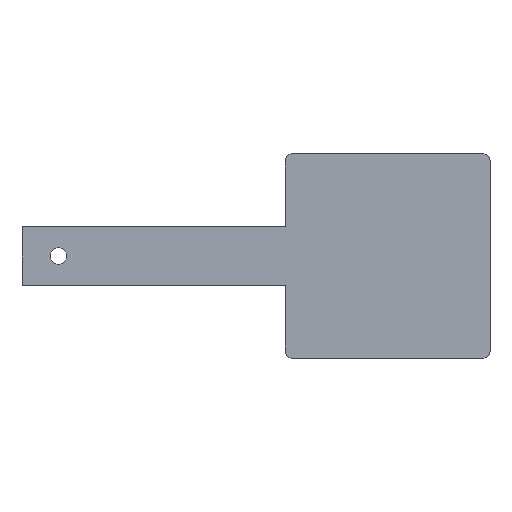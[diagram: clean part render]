
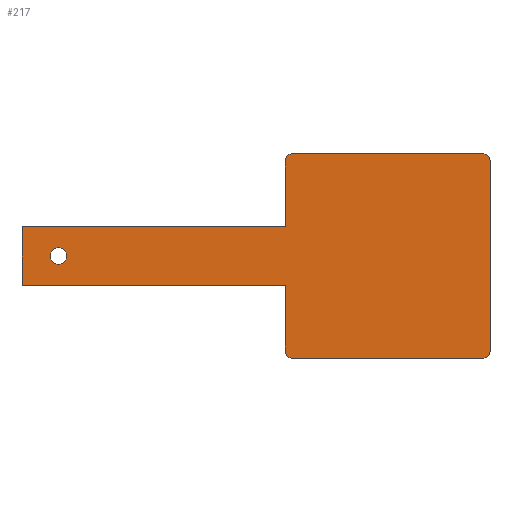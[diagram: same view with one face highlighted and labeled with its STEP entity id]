
A CAD part, top view. The second image highlights one B-rep face of the part: STEP entity #217.
In plain terms, the highlighted planar face has unit normal (0, 0, 1).
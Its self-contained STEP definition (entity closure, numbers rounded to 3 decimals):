
#24 = VERTEX_POINT('',#25);
#25 = CARTESIAN_POINT('',(-26.,-28.,0.35));
#31 = EDGE_CURVE('',#24,#32,#34,.T.);
#32 = VERTEX_POINT('',#33);
#33 = CARTESIAN_POINT('',(26.,-28.,0.35));
#34 = LINE('',#35,#36);
#35 = CARTESIAN_POINT('',(-26.,-28.,0.35));
#36 = VECTOR('',#37,1.);
#37 = DIRECTION('',(1.,0.,0.));
#64 = VERTEX_POINT('',#65);
#65 = CARTESIAN_POINT('',(-28.,-26.,0.35));
#71 = EDGE_CURVE('',#64,#24,#72,.T.);
#72 = CIRCLE('',#73,2.);
#73 = AXIS2_PLACEMENT_3D('',#74,#75,#76);
#74 = CARTESIAN_POINT('',(-26.,-26.,0.35));
#75 = DIRECTION('',(0.,0.,1.));
#76 = DIRECTION('',(1.,0.,0.));
#95 = EDGE_CURVE('',#32,#96,#98,.T.);
#96 = VERTEX_POINT('',#97);
#97 = CARTESIAN_POINT('',(28.,-26.,0.35));
#98 = CIRCLE('',#99,2.);
#99 = AXIS2_PLACEMENT_3D('',#100,#101,#102);
#100 = CARTESIAN_POINT('',(26.,-26.,0.35));
#101 = DIRECTION('',(0.,0.,1.));
#102 = DIRECTION('',(1.,0.,0.));
#217 = ADVANCED_FACE('',(#218,#295),#306,.T.);
#218 = FACE_BOUND('',#219,.T.);
#219 = EDGE_LOOP('',(#220,#221,#222,#223,#231,#240,#248,#257,#265,#273,
    #281,#289));
#220 = ORIENTED_EDGE('',*,*,#71,.T.);
#221 = ORIENTED_EDGE('',*,*,#31,.T.);
#222 = ORIENTED_EDGE('',*,*,#95,.T.);
#223 = ORIENTED_EDGE('',*,*,#224,.T.);
#224 = EDGE_CURVE('',#96,#225,#227,.T.);
#225 = VERTEX_POINT('',#226);
#226 = CARTESIAN_POINT('',(28.,26.,0.35));
#227 = LINE('',#228,#229);
#228 = CARTESIAN_POINT('',(28.,-26.,0.35));
#229 = VECTOR('',#230,1.);
#230 = DIRECTION('',(0.,1.,0.));
#231 = ORIENTED_EDGE('',*,*,#232,.T.);
#232 = EDGE_CURVE('',#225,#233,#235,.T.);
#233 = VERTEX_POINT('',#234);
#234 = CARTESIAN_POINT('',(26.,28.,0.35));
#235 = CIRCLE('',#236,2.);
#236 = AXIS2_PLACEMENT_3D('',#237,#238,#239);
#237 = CARTESIAN_POINT('',(26.,26.,0.35));
#238 = DIRECTION('',(0.,0.,1.));
#239 = DIRECTION('',(1.,0.,0.));
#240 = ORIENTED_EDGE('',*,*,#241,.T.);
#241 = EDGE_CURVE('',#233,#242,#244,.T.);
#242 = VERTEX_POINT('',#243);
#243 = CARTESIAN_POINT('',(-26.,28.,0.35));
#244 = LINE('',#245,#246);
#245 = CARTESIAN_POINT('',(26.,28.,0.35));
#246 = VECTOR('',#247,1.);
#247 = DIRECTION('',(-1.,0.,0.));
#248 = ORIENTED_EDGE('',*,*,#249,.T.);
#249 = EDGE_CURVE('',#242,#250,#252,.T.);
#250 = VERTEX_POINT('',#251);
#251 = CARTESIAN_POINT('',(-28.,26.,0.35));
#252 = CIRCLE('',#253,2.);
#253 = AXIS2_PLACEMENT_3D('',#254,#255,#256);
#254 = CARTESIAN_POINT('',(-26.,26.,0.35));
#255 = DIRECTION('',(0.,0.,1.));
#256 = DIRECTION('',(1.,0.,0.));
#257 = ORIENTED_EDGE('',*,*,#258,.T.);
#258 = EDGE_CURVE('',#250,#259,#261,.T.);
#259 = VERTEX_POINT('',#260);
#260 = CARTESIAN_POINT('',(-28.,8.,0.35));
#261 = LINE('',#262,#263);
#262 = CARTESIAN_POINT('',(-28.,26.,0.35));
#263 = VECTOR('',#264,1.);
#264 = DIRECTION('',(0.,-1.,0.));
#265 = ORIENTED_EDGE('',*,*,#266,.T.);
#266 = EDGE_CURVE('',#259,#267,#269,.T.);
#267 = VERTEX_POINT('',#268);
#268 = CARTESIAN_POINT('',(-100.,8.,0.35));
#269 = LINE('',#270,#271);
#270 = CARTESIAN_POINT('',(-24.,8.,0.35));
#271 = VECTOR('',#272,1.);
#272 = DIRECTION('',(-1.,0.,0.));
#273 = ORIENTED_EDGE('',*,*,#274,.T.);
#274 = EDGE_CURVE('',#267,#275,#277,.T.);
#275 = VERTEX_POINT('',#276);
#276 = CARTESIAN_POINT('',(-100.,-8.,0.35));
#277 = LINE('',#278,#279);
#278 = CARTESIAN_POINT('',(-100.,8.,0.35));
#279 = VECTOR('',#280,1.);
#280 = DIRECTION('',(0.,-1.,0.));
#281 = ORIENTED_EDGE('',*,*,#282,.T.);
#282 = EDGE_CURVE('',#275,#283,#285,.T.);
#283 = VERTEX_POINT('',#284);
#284 = CARTESIAN_POINT('',(-28.,-8.,0.35));
#285 = LINE('',#286,#287);
#286 = CARTESIAN_POINT('',(-100.,-8.,0.35));
#287 = VECTOR('',#288,1.);
#288 = DIRECTION('',(1.,0.,0.));
#289 = ORIENTED_EDGE('',*,*,#290,.T.);
#290 = EDGE_CURVE('',#283,#64,#291,.T.);
#291 = LINE('',#292,#293);
#292 = CARTESIAN_POINT('',(-28.,26.,0.35));
#293 = VECTOR('',#294,1.);
#294 = DIRECTION('',(0.,-1.,0.));
#295 = FACE_BOUND('',#296,.T.);
#296 = EDGE_LOOP('',(#297));
#297 = ORIENTED_EDGE('',*,*,#298,.F.);
#298 = EDGE_CURVE('',#299,#299,#301,.T.);
#299 = VERTEX_POINT('',#300);
#300 = CARTESIAN_POINT('',(-87.75,0.,0.35));
#301 = CIRCLE('',#302,2.25);
#302 = AXIS2_PLACEMENT_3D('',#303,#304,#305);
#303 = CARTESIAN_POINT('',(-90.,0.,0.35));
#304 = DIRECTION('',(0.,0.,1.));
#305 = DIRECTION('',(1.,0.,0.));
#306 = PLANE('',#307);
#307 = AXIS2_PLACEMENT_3D('',#308,#309,#310);
#308 = CARTESIAN_POINT('',(-28.45,0.,0.35));
#309 = DIRECTION('',(0.,0.,1.));
#310 = DIRECTION('',(1.,0.,0.));
